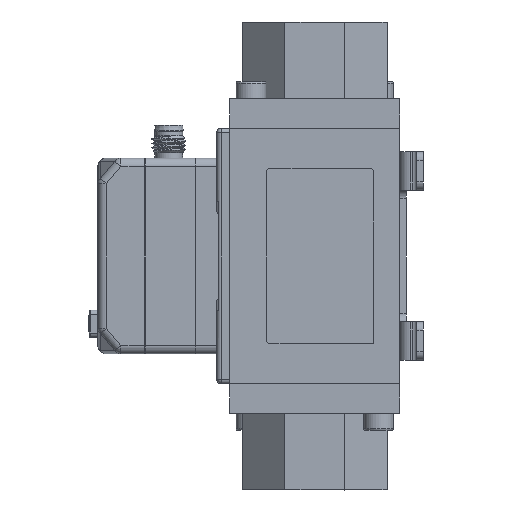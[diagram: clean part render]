
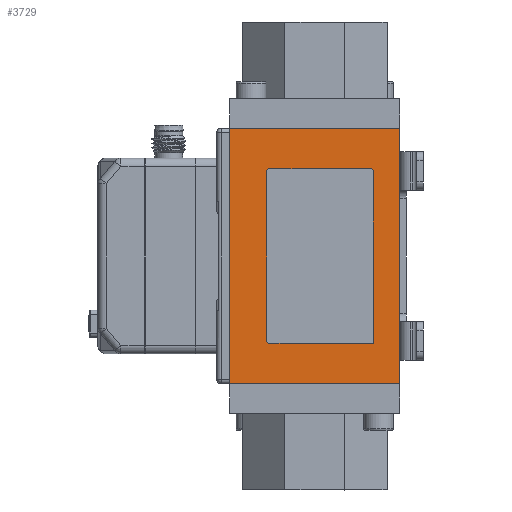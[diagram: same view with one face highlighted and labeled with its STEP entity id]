
A CAD part, front view. The second image highlights one B-rep face of the part: STEP entity #3729.
In plain terms, the highlighted planar face has unit normal (0, -1, 0).
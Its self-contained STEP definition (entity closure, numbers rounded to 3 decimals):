
#2123=FACE_BOUND('',#6762,.T.);
#2124=FACE_BOUND('',#6763,.T.);
#2782=CIRCLE('',#22898,0.5);
#2783=CIRCLE('',#22902,0.5);
#2784=CIRCLE('',#22918,0.5);
#3729=ADVANCED_FACE('',(#2123,#2124),#4536,.T.);
#4536=PLANE('',#22919);
#6762=EDGE_LOOP('',(#11316,#11317,#11318,#11319));
#6763=EDGE_LOOP('',(#11320,#11321,#11322,#11323,#11324,#11325,#11326));
#11316=ORIENTED_EDGE('',*,*,#16898,.T.);
#11317=ORIENTED_EDGE('',*,*,#16564,.T.);
#11318=ORIENTED_EDGE('',*,*,#16557,.F.);
#11319=ORIENTED_EDGE('',*,*,#16631,.F.);
#11320=ORIENTED_EDGE('',*,*,#16852,.F.);
#11321=ORIENTED_EDGE('',*,*,#16899,.F.);
#11322=ORIENTED_EDGE('',*,*,#16900,.F.);
#11323=ORIENTED_EDGE('',*,*,#16849,.F.);
#11324=ORIENTED_EDGE('',*,*,#16847,.F.);
#11325=ORIENTED_EDGE('',*,*,#16844,.F.);
#11326=ORIENTED_EDGE('',*,*,#16854,.F.);
#14050=VERTEX_POINT('',#41584);
#14059=VERTEX_POINT('',#41602);
#14066=VERTEX_POINT('',#41618);
#14129=VERTEX_POINT('',#41791);
#14267=VERTEX_POINT('',#42554);
#14268=VERTEX_POINT('',#42555);
#14269=VERTEX_POINT('',#42560);
#14270=VERTEX_POINT('',#42564);
#14271=VERTEX_POINT('',#42568);
#14272=VERTEX_POINT('',#42570);
#14301=VERTEX_POINT('',#42662);
#16557=EDGE_CURVE('',#14059,#14050,#18803,.T.);
#16564=EDGE_CURVE('',#14066,#14050,#18804,.T.);
#16631=EDGE_CURVE('',#14129,#14059,#18851,.T.);
#16844=EDGE_CURVE('',#14267,#14268,#18988,.T.);
#16847=EDGE_CURVE('',#14268,#14269,#2782,.T.);
#16849=EDGE_CURVE('',#14269,#14270,#18992,.T.);
#16852=EDGE_CURVE('',#14271,#14272,#18995,.T.);
#16854=EDGE_CURVE('',#14272,#14267,#2783,.T.);
#16898=EDGE_CURVE('',#14129,#14066,#19040,.T.);
#16899=EDGE_CURVE('',#14301,#14271,#19041,.T.);
#16900=EDGE_CURVE('',#14270,#14301,#2784,.T.);
#18803=LINE('',#41603,#20796);
#18804=LINE('',#41617,#20797);
#18851=LINE('',#41792,#20844);
#18988=LINE('',#42553,#20981);
#18992=LINE('',#42563,#20985);
#18995=LINE('',#42569,#20988);
#19040=LINE('',#42660,#21033);
#19041=LINE('',#42661,#21034);
#20796=VECTOR('',#27027,1.);
#20797=VECTOR('',#27042,1.);
#20844=VECTOR('',#27143,1.);
#20981=VECTOR('',#27498,1.);
#20985=VECTOR('',#27508,1.);
#20988=VECTOR('',#27513,1.);
#21033=VECTOR('',#27592,1.);
#21034=VECTOR('',#27593,1.);
#22898=AXIS2_PLACEMENT_3D('',#42559,#27503,#27504);
#22902=AXIS2_PLACEMENT_3D('',#42573,#27517,#27518);
#22918=AXIS2_PLACEMENT_3D('',#42663,#27594,#27595);
#22919=AXIS2_PLACEMENT_3D('',#42664,#27596,#27597);
#27027=DIRECTION('',(1.,0.,0.));
#27042=DIRECTION('',(0.,0.,1.));
#27143=DIRECTION('',(0.,0.,1.));
#27498=DIRECTION('',(-1.,0.,0.));
#27503=DIRECTION('',(0.,-1.,0.));
#27504=DIRECTION('',(0.,0.,1.));
#27508=DIRECTION('',(0.,0.,-1.));
#27513=DIRECTION('',(0.,0.,1.));
#27517=DIRECTION('',(0.,-1.,0.));
#27518=DIRECTION('',(0.,0.,1.));
#27592=DIRECTION('',(1.,0.,0.));
#27593=DIRECTION('',(1.,0.,0.));
#27594=DIRECTION('',(0.,-1.,0.));
#27595=DIRECTION('',(0.,0.,1.));
#27596=DIRECTION('',(0.,-1.,0.));
#27597=DIRECTION('',(-1.,0.,0.));
#41584=CARTESIAN_POINT('',(42.,2.,-8.));
#41602=CARTESIAN_POINT('',(2.,2.,-8.));
#41603=CARTESIAN_POINT('',(-0.5,2.,-8.));
#41617=CARTESIAN_POINT('',(42.,2.,-78.));
#41618=CARTESIAN_POINT('',(42.,2.,-68.));
#41791=CARTESIAN_POINT('',(2.,2.,-68.));
#41792=CARTESIAN_POINT('',(2.,2.,-78.));
#42553=CARTESIAN_POINT('',(35.25,2.,-17.5));
#42554=CARTESIAN_POINT('',(35.25,2.,-17.5));
#42555=CARTESIAN_POINT('',(11.25,2.,-17.5));
#42559=CARTESIAN_POINT('',(11.25,2.,-18.));
#42560=CARTESIAN_POINT('',(10.75,2.,-18.));
#42563=CARTESIAN_POINT('',(10.75,2.,-18.));
#42564=CARTESIAN_POINT('',(10.75,2.,-58.));
#42568=CARTESIAN_POINT('',(35.75,2.,-58.5));
#42569=CARTESIAN_POINT('',(35.75,2.,-68.));
#42570=CARTESIAN_POINT('',(35.75,2.,-18.));
#42573=CARTESIAN_POINT('',(35.25,2.,-18.));
#42660=CARTESIAN_POINT('',(-0.5,2.,-68.));
#42661=CARTESIAN_POINT('',(11.25,2.,-58.5));
#42662=CARTESIAN_POINT('',(11.25,2.,-58.5));
#42663=CARTESIAN_POINT('',(11.25,2.,-58.));
#42664=CARTESIAN_POINT('',(-0.5,2.,-78.));
